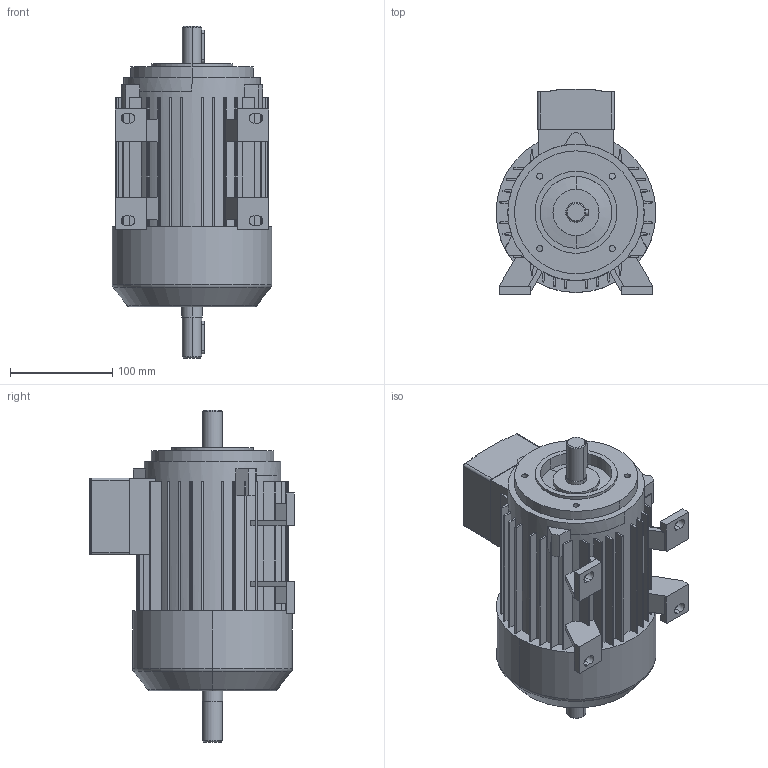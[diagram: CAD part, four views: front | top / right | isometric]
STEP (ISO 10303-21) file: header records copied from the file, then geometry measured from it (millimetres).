
FILE_DESCRIPTION((''),'2;1');
FILE_NAME('1LA7080-2AA17-Z-K16_PRT','2002-04-12T',('martin könig'),(''),'PRO/ENGINEER BY PARAMETRIC TECHNOLOGY CORPORATION, 2002030','PRO/ENGINEER BY PARAMETRIC TECHNOLOGY CORPORATION, 2002030','');
FILE_SCHEMA(('CONFIG_CONTROL_DESIGN'));
Length unit declared in the file: millimetre
Products named in the file (1): 1LA7080-2AA17-Z-K16_PRT
Bounding box: 156 x 200 x 324 mm (x, y, z)
Volume: 3999658.2 mm3; surface area: 245778.9 mm2
Topology: 1 solids, 1 shells, 336 faces, 927 edges, 609 vertices
Faces by surface type: plane 218, cylinder 102, cone 12, torus 4
Entity records: 10913 total; most frequent: CARTESIAN_POINT 2032, DIRECTION 1875, ORIENTED_EDGE 1854, EDGE_CURVE 927, VECTOR 627, LINE 627, AXIS2_PLACEMENT_3D 624, VERTEX_POINT 609
